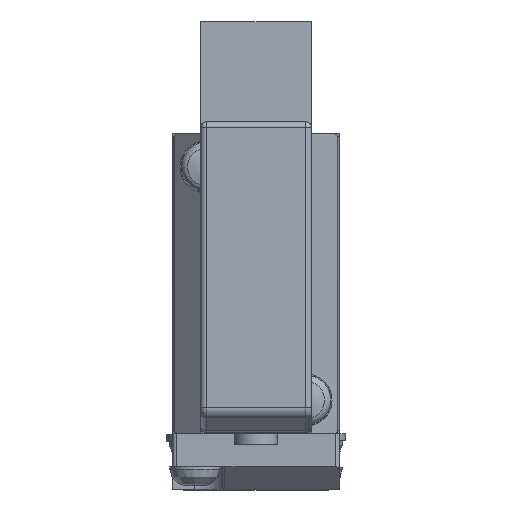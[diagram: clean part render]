
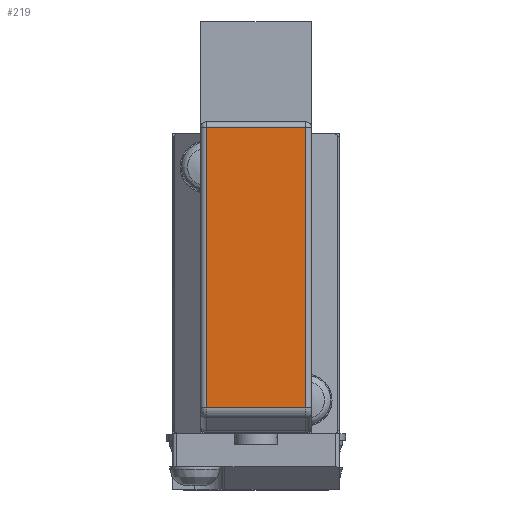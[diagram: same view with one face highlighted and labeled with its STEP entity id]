
A CAD part, top view. The second image highlights one B-rep face of the part: STEP entity #219.
In plain terms, the highlighted planar face has unit normal (0, 0, 1).
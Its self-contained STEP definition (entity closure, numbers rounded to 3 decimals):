
#219=ADVANCED_FACE('',(#1524),#1523,.F.);
#1523=PLANE('',#4267);
#1524=FACE_OUTER_BOUND('',#4268,.T.);
#4264=CARTESIAN_POINT('',(5.4,-52.983,71.5));
#4265=DIRECTION('',(0.,0.,-1.));
#4266=DIRECTION('',(-1.,0.,0.));
#4267=AXIS2_PLACEMENT_3D('',#4264,#4265,#4266);
#4268=EDGE_LOOP('',(#6089,#6090,#6091,#6092));
#6089=ORIENTED_EDGE('',*,*,#7438,.T.);
#6090=ORIENTED_EDGE('',*,*,#7402,.T.);
#6091=ORIENTED_EDGE('',*,*,#7439,.F.);
#6092=ORIENTED_EDGE('',*,*,#7423,.T.);
#7402=EDGE_CURVE('',#9647,#9660,#9667,.T.);
#7423=EDGE_CURVE('',#9778,#9798,#9805,.T.);
#7438=EDGE_CURVE('',#9798,#9647,#9900,.T.);
#7439=EDGE_CURVE('',#9778,#9660,#9906,.T.);
#9647=VERTEX_POINT('',#14300);
#9660=VERTEX_POINT('',#14309);
#9667=LINE('',#14314,#14315);
#9778=VERTEX_POINT('',#14386);
#9798=VERTEX_POINT('',#14400);
#9805=LINE('',#14405,#14406);
#9900=LINE('',#14458,#14459);
#9906=LINE('',#14461,#14462);
#14300=CARTESIAN_POINT('',(-4.5,-25.2,71.5));
#14309=CARTESIAN_POINT('',(-4.5,-50.458,71.5));
#14314=CARTESIAN_POINT('',(-4.5,-25.2,71.5));
#14315=VECTOR('',#14316,25.258);
#14316=DIRECTION('',(0.,-1.,0.));
#14386=CARTESIAN_POINT('',(4.5,-50.458,71.5));
#14400=CARTESIAN_POINT('',(4.5,-25.2,71.5));
#14405=CARTESIAN_POINT('',(4.5,-50.458,71.5));
#14406=VECTOR('',#14407,25.258);
#14407=DIRECTION('',(0.,1.,0.));
#14458=CARTESIAN_POINT('',(4.5,-25.2,71.5));
#14459=VECTOR('',#14460,9.);
#14460=DIRECTION('',(-1.,0.,0.));
#14461=CARTESIAN_POINT('',(4.5,-50.458,71.5));
#14462=VECTOR('',#14463,9.);
#14463=DIRECTION('',(-1.,0.,0.));
